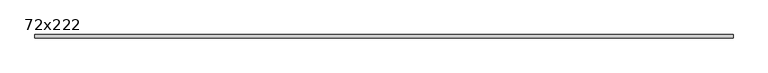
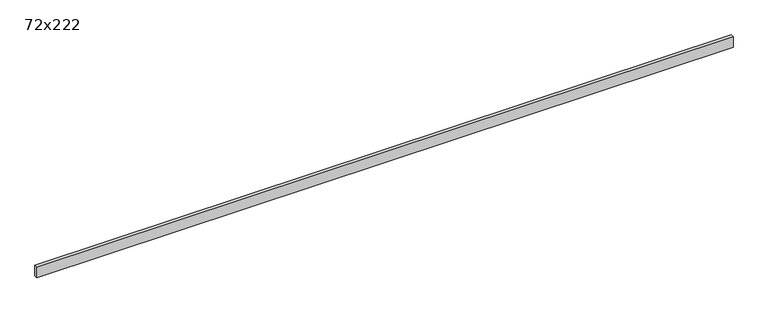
"""IFC4 building model written with IfcOpenShell, lengths in millimetres: beam geometry, C&L poutre bois : 72x222."""

from ifc_helpers import new_model, si_unit, frame, origin, place, context, project, spatial, polyline, outline, extrude, source, transform, mapped, element, save


def beam_72x222_d4e21de5(model_context):
    return source(origin(), model_context, "Body", "SweptSolid", [
        extrude(outline(polyline([(7165.3896905, 36.0), (7165.3896905, -36.0), (-7165.3896905, -36.0), (-7165.3896905, 36.0), (7165.3896905, 36.0)])), frame((0.0, 0.0, -112.5), z_axis=(0.0, 0.0, 1.0), x_axis=(1.0, 0.0, 0.0)), (0.0, 0.0, 1.0), 225.0),
    ])


if __name__ == "__main__":
    model = new_model("IFC4")
    model_context = context("Model", 3, world=origin())
    ifc_project = project(units=[si_unit("LENGTHUNIT", "METRE", prefix="MILLI")], contexts=[model_context])
    site = spatial("IfcSite", under=ifc_project)
    building = spatial("IfcBuilding", under=site)
    placement = place(None, origin())
    beam_72x222_shape = beam_72x222_d4e21de5(model_context)
    element("IfcBeam", 1, ObjectType="C&L poutre bois : 72x222", at=placement, inside=building, context=model_context, shape_type="MappedRepresentation", body=[
        mapped(beam_72x222_shape, transform((0.0, 0.0, 0.0), x_axis=(1.0, 0.0, 0.0), y_axis=(0.0, 1.0, 0.0), z_axis=(0.0, 0.0, 1.0))),
    ])
    save(model, "model.ifc")
